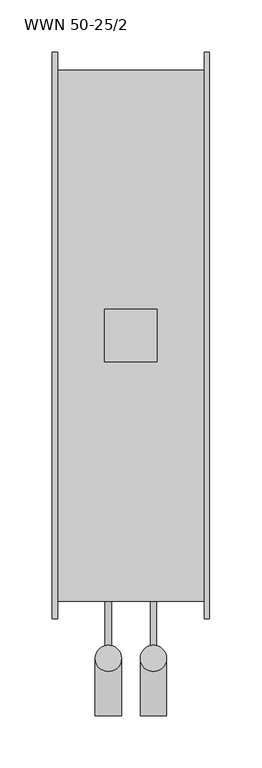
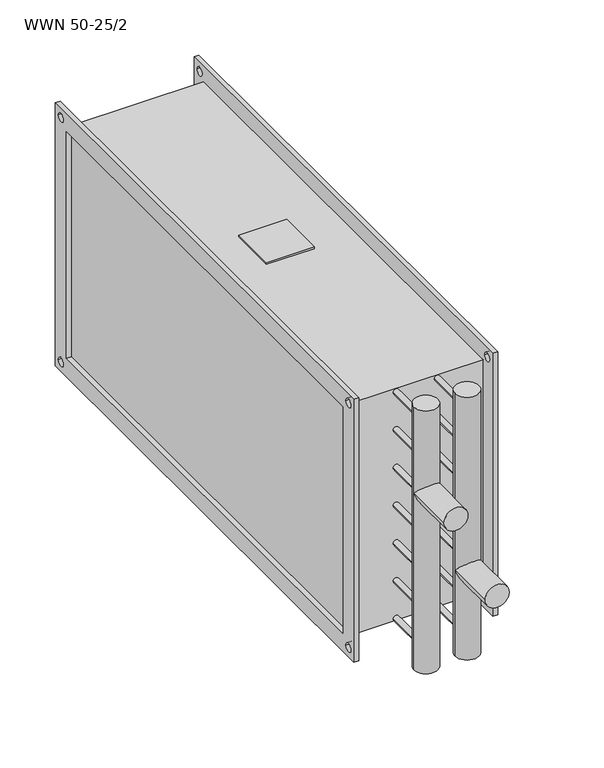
"""IFC4 building model written with IfcOpenShell, lengths in millimetres: proxy geometry, KORF_Нагреватель_Водяной_WWN : WWN 50-25/2."""

from ifc_helpers import new_model, si_unit, point, frame, frame_2d, origin, place, context, project, spatial, polyline, circle_curve, ellipse_curve, trimmed, segment, composite_curve, outline, extrude, source, transform, mapped, element, save
from ifc_brep_helpers import plane_surface, cylinder_surface, advanced_brep


def wwn_50_25_2_c194b101(model_context):
    return source(origin(), model_context, "Body", "SolidModel", [
        extrude(outline(polyline([(50.0, -25.0), (50.0, 25.0), (100.0, 25.0), (100.0, -25.0), (50.0, -25.0)])), frame((0.0, 0.0, 128.0), z_axis=(0.0, 0.0, 1.0), x_axis=(1.0, 0.0, 0.0)), (0.0, 0.0, 1.0), 2.0),
        extrude(outline(polyline([(-270.0, 145.0), (270.0, 145.0), (270.0, -145.0), (-270.0, -145.0), (-270.0, 145.0)]), holes=[polyline([(-250.0, 125.0), (-250.0, -125.0), (250.0, -125.0), (250.0, 125.0), (-250.0, 125.0)]), composite_curve([segment(trimmed(circle_curve(frame_2d((260.0, 135.0)), 4.5), [point((255.5, 135.0))], [point((264.5, 135.0))], True, "CARTESIAN"), True, "CONTINUOUS"), segment(trimmed(circle_curve(frame_2d((260.0, 135.0)), 4.5), [point((264.5, 135.0))], [point((255.5, 135.0))], True, "CARTESIAN"), True, "CONTINUOUS")], self_intersect=False), composite_curve([segment(trimmed(circle_curve(frame_2d((-260.0, 135.0)), 4.5), [point((-264.5, 135.0))], [point((-255.5, 135.0))], True, "CARTESIAN"), True, "CONTINUOUS"), segment(trimmed(circle_curve(frame_2d((-260.0, 135.0)), 4.5), [point((-255.5, 135.0))], [point((-264.5, 135.0))], True, "CARTESIAN"), True, "CONTINUOUS")], self_intersect=False), composite_curve([segment(trimmed(circle_curve(frame_2d((-260.0, -135.0)), 4.5), [point((-264.5, -135.0))], [point((-255.5, -135.0))], True, "CARTESIAN"), True, "CONTINUOUS"), segment(trimmed(circle_curve(frame_2d((-260.0, -135.0)), 4.5), [point((-255.5, -135.0))], [point((-264.5, -135.0))], True, "CARTESIAN"), True, "CONTINUOUS")], self_intersect=False), composite_curve([segment(trimmed(circle_curve(frame_2d((260.0, -135.0)), 4.5), [point((255.5, -135.0))], [point((264.5, -135.0))], True, "CARTESIAN"), True, "CONTINUOUS"), segment(trimmed(circle_curve(frame_2d((260.0, -135.0)), 4.5), [point((264.5, -135.0))], [point((255.5, -135.0))], True, "CARTESIAN"), True, "CONTINUOUS")], self_intersect=False)]), frame((145.0, 0.0, 0.0), z_axis=(1.0, 0.0, 0.0), x_axis=(0.0, 1.0, 0.0)), (0.0, 0.0, 1.0), 5.0),
        extrude(outline(polyline([(-270.0, 145.0), (270.0, 145.0), (270.0, -145.0), (-270.0, -145.0), (-270.0, 145.0)]), holes=[polyline([(-250.0, 125.0), (-250.0, -125.0), (250.0, -125.0), (250.0, 125.0), (-250.0, 125.0)]), composite_curve([segment(trimmed(circle_curve(frame_2d((260.0, 135.0)), 4.5), [point((255.5, 135.0))], [point((264.5, 135.0))], True, "CARTESIAN"), True, "CONTINUOUS"), segment(trimmed(circle_curve(frame_2d((260.0, 135.0)), 4.5), [point((264.5, 135.0))], [point((255.5, 135.0))], True, "CARTESIAN"), True, "CONTINUOUS")], self_intersect=False), composite_curve([segment(trimmed(circle_curve(frame_2d((-260.0, 135.0)), 4.5), [point((-264.5, 135.0))], [point((-255.5, 135.0))], True, "CARTESIAN"), True, "CONTINUOUS"), segment(trimmed(circle_curve(frame_2d((-260.0, 135.0)), 4.5), [point((-255.5, 135.0))], [point((-264.5, 135.0))], True, "CARTESIAN"), True, "CONTINUOUS")], self_intersect=False), composite_curve([segment(trimmed(circle_curve(frame_2d((-260.0, -135.0)), 4.5), [point((-264.5, -135.0))], [point((-255.5, -135.0))], True, "CARTESIAN"), True, "CONTINUOUS"), segment(trimmed(circle_curve(frame_2d((-260.0, -135.0)), 4.5), [point((-255.5, -135.0))], [point((-264.5, -135.0))], True, "CARTESIAN"), True, "CONTINUOUS")], self_intersect=False), composite_curve([segment(trimmed(circle_curve(frame_2d((260.0, -135.0)), 4.5), [point((255.5, -135.0))], [point((264.5, -135.0))], True, "CARTESIAN"), True, "CONTINUOUS"), segment(trimmed(circle_curve(frame_2d((260.0, -135.0)), 4.5), [point((264.5, -135.0))], [point((255.5, -135.0))], True, "CARTESIAN"), True, "CONTINUOUS")], self_intersect=False)]), frame((0.0, 0.0, 0.0), z_axis=(1.0, 0.0, 0.0), x_axis=(0.0, 1.0, 0.0)), (0.0, 0.0, 1.0), 5.0),
        extrude(outline(polyline([(145.0, 253.0), (145.0, -253.0), (5.0, -253.0), (5.0, 253.0), (145.0, 253.0)])), frame((0.0, 0.0, -128.0), z_axis=(0.0, 0.0, 1.0), x_axis=(1.0, 0.0, 0.0)), (0.0, 0.0, 1.0), 256.0),
        advanced_brep(
        [(41.0, -362.0, 50.0), (66.0, -362.0, 50.0), (41.0, -307.5, 50.0), (66.0, -307.5, 50.0), (41.0, -307.5, 145.0), (66.0, -307.5, 145.0), (41.0, -307.5, -145.0), (66.0, -307.5, -145.0)],
        [
            (0, 1, circle_curve(frame((53.5, -362.0, 50.0), z_axis=(0.0, -1.0, 0.0), x_axis=(1.0, 0.0, 0.0)), 12.5)),
            (1, 0, circle_curve(frame((53.5, -362.0, 50.0), z_axis=(0.0, -1.0, 0.0), x_axis=(1.0, 0.0, 0.0)), 12.5)),
            (0, 2),
            (2, 3, ellipse_curve(frame((53.5, -307.5, 50.0), z_axis=(0.0, -0.7071067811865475, 0.7071067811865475), x_axis=(0.0, -0.7071067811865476, -0.7071067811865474)), 17.6776695, 12.5)),
            (3, 1),
            (3, 2, ellipse_curve(frame((53.5, -307.5, 50.0), z_axis=(0.0, -0.7071067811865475, -0.7071067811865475), x_axis=(0.0, -0.7071067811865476, 0.7071067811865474)), 17.6776695, 12.5)),
            (4, 5, circle_curve(frame((53.5, -307.5, 145.0), z_axis=(0.0, 0.0, 1.0), x_axis=(1.0, 0.0, 0.0)), 12.5)),
            (5, 4, circle_curve(frame((53.5, -307.5, 145.0), z_axis=(0.0, 0.0, 1.0), x_axis=(1.0, 0.0, 0.0)), 12.5)),
            (6, 7, circle_curve(frame((53.5, -307.5, -145.0), z_axis=(0.0, 0.0, -1.0), x_axis=(1.0, 0.0, 0.0)), 12.5)),
            (7, 6, circle_curve(frame((53.5, -307.5, -145.0), z_axis=(0.0, 0.0, -1.0), x_axis=(1.0, 0.0, 0.0)), 12.5)),
            (4, 2),
            (3, 5),
            (7, 3),
            (2, 6),
        ],
        [
            plane_surface(frame((66.0, -362.0, 50.0), z_axis=(0.0, -1.0, 0.0), x_axis=(0.0, 0.0, 1.0))),
            cylinder_surface(frame((53.5, -307.5, 50.0), z_axis=(0.0, -1.0, 0.0), x_axis=(1.0, 0.0, 0.0)), 12.5),
            plane_surface(frame((66.0, -307.5, 145.0), z_axis=(0.0, 0.0, 1.0), x_axis=(0.0, 1.0, 0.0))),
            plane_surface(frame((66.0, -307.5, -145.0), z_axis=(0.0, 0.0, -1.0), x_axis=(0.0, -1.0, 0.0))),
            cylinder_surface(frame((53.5, -307.5, -145.0), z_axis=(0.0, 0.0, 1.0), x_axis=(1.0, 0.0, 0.0)), 12.5),
        ],
        [
            (0, [[1, 2]]),
            (1, [[-1, 3, 4, 5]]),
            (1, [[-2, -5, 6, -3]]),
            (2, [[7, 8]]),
            (3, [[9, 10]]),
            (4, [[-7, 11, -6, 12]]),
            (4, [[-10, 13, -4, 14]]),
            (4, [[-8, -12, -13, -9, -14, -11]]),
        ],
    ),
        advanced_brep(
        [(84.0, -362.0, -50.0), (109.0, -362.0, -50.0), (84.0, -307.5, -50.0), (109.0, -307.5, -50.0), (84.0, -307.5, 145.0), (109.0, -307.5, 145.0), (84.0, -307.5, -145.0), (109.0, -307.5, -145.0)],
        [
            (0, 1, circle_curve(frame((96.5, -362.0, -50.0), z_axis=(0.0, -1.0, 0.0), x_axis=(1.0, 0.0, 0.0)), 12.5)),
            (1, 0, circle_curve(frame((96.5, -362.0, -50.0), z_axis=(0.0, -1.0, 0.0), x_axis=(1.0, 0.0, 0.0)), 12.5)),
            (0, 2),
            (2, 3, ellipse_curve(frame((96.5, -307.5, -50.0), z_axis=(0.0, -0.7071067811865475, 0.7071067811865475), x_axis=(0.0, -0.7071067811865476, -0.7071067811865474)), 17.6776695, 12.5)),
            (3, 1),
            (3, 2, ellipse_curve(frame((96.5, -307.5, -50.0), z_axis=(0.0, -0.7071067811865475, -0.7071067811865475), x_axis=(0.0, -0.7071067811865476, 0.7071067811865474)), 17.6776695, 12.5)),
            (4, 5, circle_curve(frame((96.5, -307.5, 145.0), z_axis=(0.0, 0.0, 1.0), x_axis=(1.0, 0.0, 0.0)), 12.5)),
            (5, 4, circle_curve(frame((96.5, -307.5, 145.0), z_axis=(0.0, 0.0, 1.0), x_axis=(1.0, 0.0, 0.0)), 12.5)),
            (6, 7, circle_curve(frame((96.5, -307.5, -145.0), z_axis=(0.0, 0.0, -1.0), x_axis=(1.0, 0.0, 0.0)), 12.5)),
            (7, 6, circle_curve(frame((96.5, -307.5, -145.0), z_axis=(0.0, 0.0, -1.0), x_axis=(1.0, 0.0, 0.0)), 12.5)),
            (4, 2),
            (3, 5),
            (7, 3),
            (2, 6),
        ],
        [
            plane_surface(frame((66.0, -362.0, 50.0), z_axis=(0.0, -1.0, 0.0), x_axis=(0.0, 0.0, 1.0))),
            cylinder_surface(frame((96.5, 0.0, -50.0), z_axis=(0.0, -1.0, 0.0), x_axis=(1.0, 0.0, 0.0)), 12.5),
            plane_surface(frame((66.0, -307.5, 145.0), z_axis=(0.0, 0.0, 1.0), x_axis=(0.0, 1.0, 0.0))),
            plane_surface(frame((66.0, -307.5, -145.0), z_axis=(0.0, 0.0, -1.0), x_axis=(0.0, -1.0, 0.0))),
            cylinder_surface(frame((96.5, -307.5, 0.0), z_axis=(0.0, 0.0, 1.0), x_axis=(1.0, 0.0, 0.0)), 12.5),
        ],
        [
            (0, [[1, 2]]),
            (1, [[-1, 3, 4, 5]]),
            (1, [[-2, -5, 6, -3]]),
            (2, [[7, 8]]),
            (3, [[9, 10]]),
            (4, [[-7, 11, -6, 12]]),
            (4, [[-10, 13, -4, 14]]),
            (4, [[-8, -12, -13, -9, -14, -11]]),
        ],
    ),
        extrude(outline(composite_curve([segment(trimmed(circle_curve(frame_2d((125.0, 53.5)), 3.0), [point((125.0, 50.5))], [point((125.0, 56.5))], False, "CARTESIAN"), True, "CONTINUOUS"), segment(trimmed(circle_curve(frame_2d((125.0, 53.5)), 3.0), [point((125.0, 56.5))], [point((125.0, 50.5))], False, "CARTESIAN"), True, "CONTINUOUS")], self_intersect=False)), frame((0.0, -307.5, 0.0), z_axis=(0.0, 1.0, 0.0), x_axis=(0.0, 0.0, 1.0)), (0.0, 0.0, 1.0), 54.5),
        extrude(outline(composite_curve([segment(trimmed(circle_curve(frame_2d((83.3333333, 53.5)), 3.0), [point((83.3333333, 50.5))], [point((83.3333333, 56.5))], False, "CARTESIAN"), True, "CONTINUOUS"), segment(trimmed(circle_curve(frame_2d((83.3333333, 53.5)), 3.0), [point((83.3333333, 56.5))], [point((83.3333333, 50.5))], False, "CARTESIAN"), True, "CONTINUOUS")], self_intersect=False)), frame((0.0, -307.5, 0.0), z_axis=(0.0, 1.0, 0.0), x_axis=(0.0, 0.0, 1.0)), (0.0, 0.0, 1.0), 54.5),
        extrude(outline(composite_curve([segment(trimmed(circle_curve(frame_2d((41.6666667, 53.5)), 3.0), [point((41.6666667, 50.5))], [point((41.6666667, 56.5))], False, "CARTESIAN"), True, "CONTINUOUS"), segment(trimmed(circle_curve(frame_2d((41.6666667, 53.5)), 3.0), [point((41.6666667, 56.5))], [point((41.6666667, 50.5))], False, "CARTESIAN"), True, "CONTINUOUS")], self_intersect=False)), frame((0.0, -307.5, 0.0), z_axis=(0.0, 1.0, 0.0), x_axis=(0.0, 0.0, 1.0)), (0.0, 0.0, 1.0), 54.5),
        extrude(outline(composite_curve([segment(trimmed(circle_curve(frame_2d((0.0, 53.5)), 3.0), [point((0.0, 50.5))], [point((0.0, 56.5))], False, "CARTESIAN"), True, "CONTINUOUS"), segment(trimmed(circle_curve(frame_2d((0.0, 53.5)), 3.0), [point((0.0, 56.5))], [point((0.0, 50.5))], False, "CARTESIAN"), True, "CONTINUOUS")], self_intersect=False)), frame((0.0, -307.5, 0.0), z_axis=(0.0, 1.0, 0.0), x_axis=(0.0, 0.0, 1.0)), (0.0, 0.0, 1.0), 54.5),
        extrude(outline(composite_curve([segment(trimmed(circle_curve(frame_2d((-41.6666667, 53.5)), 3.0), [point((-41.6666667, 50.5))], [point((-41.6666667, 56.5))], False, "CARTESIAN"), True, "CONTINUOUS"), segment(trimmed(circle_curve(frame_2d((-41.6666667, 53.5)), 3.0), [point((-41.6666667, 56.5))], [point((-41.6666667, 50.5))], False, "CARTESIAN"), True, "CONTINUOUS")], self_intersect=False)), frame((0.0, -307.5, 0.0), z_axis=(0.0, 1.0, 0.0), x_axis=(0.0, 0.0, 1.0)), (0.0, 0.0, 1.0), 54.5),
        extrude(outline(composite_curve([segment(trimmed(circle_curve(frame_2d((-83.3333333, 53.5)), 3.0), [point((-83.3333333, 50.5))], [point((-83.3333333, 56.5))], False, "CARTESIAN"), True, "CONTINUOUS"), segment(trimmed(circle_curve(frame_2d((-83.3333333, 53.5)), 3.0), [point((-83.3333333, 56.5))], [point((-83.3333333, 50.5))], False, "CARTESIAN"), True, "CONTINUOUS")], self_intersect=False)), frame((0.0, -307.5, 0.0), z_axis=(0.0, 1.0, 0.0), x_axis=(0.0, 0.0, 1.0)), (0.0, 0.0, 1.0), 54.5),
        extrude(outline(composite_curve([segment(trimmed(circle_curve(frame_2d((-83.3333333, 96.5)), 3.0), [point((-83.3333333, 93.5))], [point((-83.3333333, 99.5))], False, "CARTESIAN"), True, "CONTINUOUS"), segment(trimmed(circle_curve(frame_2d((-83.3333333, 96.5)), 3.0), [point((-83.3333333, 99.5))], [point((-83.3333333, 93.5))], False, "CARTESIAN"), True, "CONTINUOUS")], self_intersect=False)), frame((0.0, -307.5, 0.0), z_axis=(0.0, 1.0, 0.0), x_axis=(0.0, 0.0, 1.0)), (0.0, 0.0, 1.0), 54.5),
        extrude(outline(composite_curve([segment(trimmed(circle_curve(frame_2d((-41.6666667, 96.5)), 3.0), [point((-41.6666667, 93.5))], [point((-41.6666667, 99.5))], False, "CARTESIAN"), True, "CONTINUOUS"), segment(trimmed(circle_curve(frame_2d((-41.6666667, 96.5)), 3.0), [point((-41.6666667, 99.5))], [point((-41.6666667, 93.5))], False, "CARTESIAN"), True, "CONTINUOUS")], self_intersect=False)), frame((0.0, -307.5, 0.0), z_axis=(0.0, 1.0, 0.0), x_axis=(0.0, 0.0, 1.0)), (0.0, 0.0, 1.0), 54.5),
        extrude(outline(composite_curve([segment(trimmed(circle_curve(frame_2d((0.0, 96.5)), 3.0), [point((0.0, 93.5))], [point((0.0, 99.5))], False, "CARTESIAN"), True, "CONTINUOUS"), segment(trimmed(circle_curve(frame_2d((0.0, 96.5)), 3.0), [point((0.0, 99.5))], [point((0.0, 93.5))], False, "CARTESIAN"), True, "CONTINUOUS")], self_intersect=False)), frame((0.0, -307.5, 0.0), z_axis=(0.0, 1.0, 0.0), x_axis=(0.0, 0.0, 1.0)), (0.0, 0.0, 1.0), 54.5),
        extrude(outline(composite_curve([segment(trimmed(circle_curve(frame_2d((41.6666667, 96.5)), 3.0), [point((41.6666667, 93.5))], [point((41.6666667, 99.5))], False, "CARTESIAN"), True, "CONTINUOUS"), segment(trimmed(circle_curve(frame_2d((41.6666667, 96.5)), 3.0), [point((41.6666667, 99.5))], [point((41.6666667, 93.5))], False, "CARTESIAN"), True, "CONTINUOUS")], self_intersect=False)), frame((0.0, -307.5, 0.0), z_axis=(0.0, 1.0, 0.0), x_axis=(0.0, 0.0, 1.0)), (0.0, 0.0, 1.0), 54.5),
        extrude(outline(composite_curve([segment(trimmed(circle_curve(frame_2d((83.3333333, 96.5)), 3.0), [point((83.3333333, 93.5))], [point((83.3333333, 99.5))], False, "CARTESIAN"), True, "CONTINUOUS"), segment(trimmed(circle_curve(frame_2d((83.3333333, 96.5)), 3.0), [point((83.3333333, 99.5))], [point((83.3333333, 93.5))], False, "CARTESIAN"), True, "CONTINUOUS")], self_intersect=False)), frame((0.0, -307.5, 0.0), z_axis=(0.0, 1.0, 0.0), x_axis=(0.0, 0.0, 1.0)), (0.0, 0.0, 1.0), 54.5),
        extrude(outline(composite_curve([segment(trimmed(circle_curve(frame_2d((125.0, 96.5)), 3.0), [point((125.0, 93.5))], [point((125.0, 99.5))], False, "CARTESIAN"), True, "CONTINUOUS"), segment(trimmed(circle_curve(frame_2d((125.0, 96.5)), 3.0), [point((125.0, 99.5))], [point((125.0, 93.5))], False, "CARTESIAN"), True, "CONTINUOUS")], self_intersect=False)), frame((0.0, -307.5, 0.0), z_axis=(0.0, 1.0, 0.0), x_axis=(0.0, 0.0, 1.0)), (0.0, 0.0, 1.0), 54.5),
        extrude(outline(composite_curve([segment(trimmed(circle_curve(frame_2d((-125.0, 53.5)), 3.0), [point((-125.0, 50.5))], [point((-125.0, 56.5))], False, "CARTESIAN"), True, "CONTINUOUS"), segment(trimmed(circle_curve(frame_2d((-125.0, 53.5)), 3.0), [point((-125.0, 56.5))], [point((-125.0, 50.5))], False, "CARTESIAN"), True, "CONTINUOUS")], self_intersect=False)), frame((0.0, -307.5, 0.0), z_axis=(0.0, 1.0, 0.0), x_axis=(0.0, 0.0, 1.0)), (0.0, 0.0, 1.0), 54.5),
        extrude(outline(composite_curve([segment(trimmed(circle_curve(frame_2d((-125.0, 96.5)), 3.0), [point((-125.0, 93.5))], [point((-125.0, 99.5))], False, "CARTESIAN"), True, "CONTINUOUS"), segment(trimmed(circle_curve(frame_2d((-125.0, 96.5)), 3.0), [point((-125.0, 99.5))], [point((-125.0, 93.5))], False, "CARTESIAN"), True, "CONTINUOUS")], self_intersect=False)), frame((0.0, -307.5, 0.0), z_axis=(0.0, 1.0, 0.0), x_axis=(0.0, 0.0, 1.0)), (0.0, 0.0, 1.0), 54.5),
    ])


if __name__ == "__main__":
    model = new_model("IFC4")
    model_context = context("Model", 3, world=origin())
    ifc_project = project(units=[si_unit("LENGTHUNIT", "METRE", prefix="MILLI")], contexts=[model_context])
    site = spatial("IfcSite", under=ifc_project)
    building = spatial("IfcBuilding", under=site)
    placement = place(None, origin())
    wwn_50_25_2_shape = wwn_50_25_2_c194b101(model_context)
    element("IfcBuildingElementProxy", 1, Name="KORF_Нагреватель_Водяной_WWN : WWN 50-25/2", ObjectType="KORF_Нагреватель_Водяной_WWN : WWN 50-25/2", at=placement, inside=building, context=model_context, shape_type="MappedRepresentation", body=[
        mapped(wwn_50_25_2_shape, transform((0.0, 0.0, 0.0), x_axis=(1.0, 0.0, 0.0), y_axis=(0.0, 1.0, 0.0), z_axis=(0.0, 0.0, 1.0))),
    ])
    save(model, "model.ifc")
